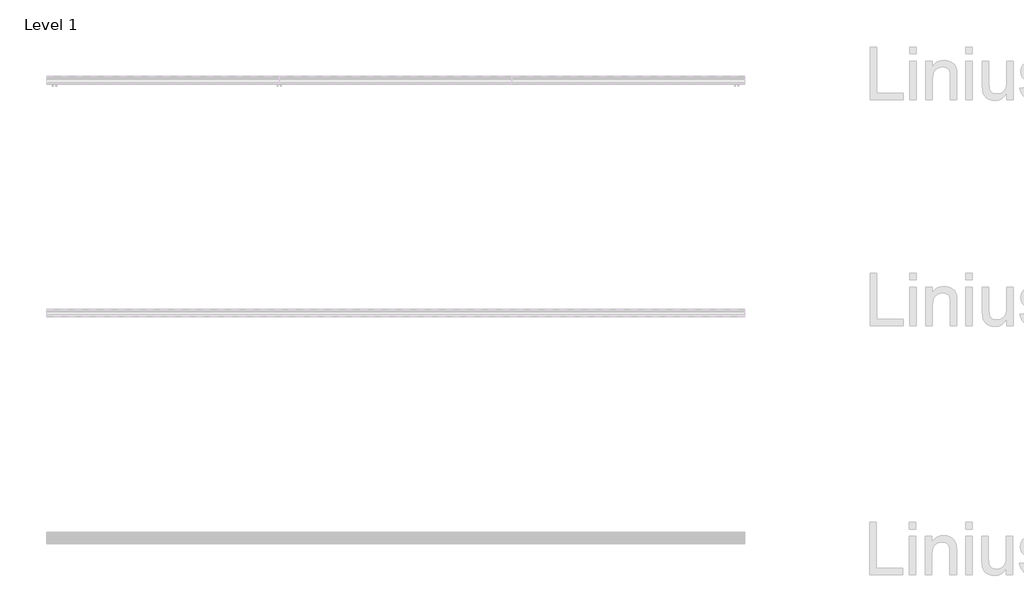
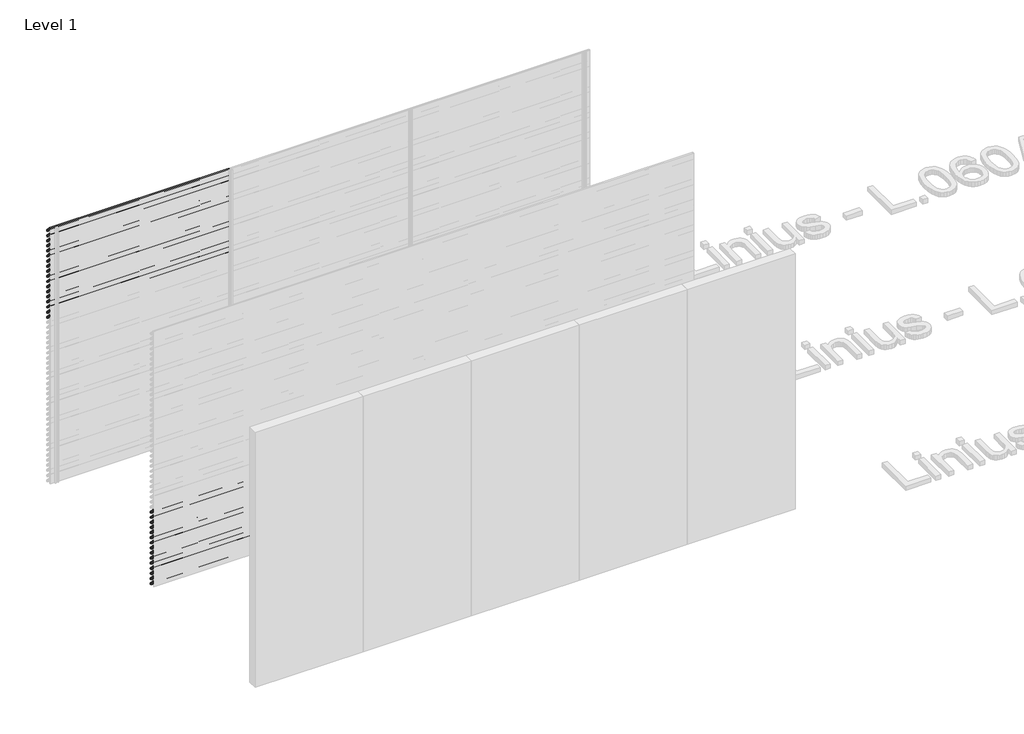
# One storey, part 138 of 153: 33 proxies.
"""IFC4 building model written with IfcOpenShell, lengths in millimetres."""

from ifc_helpers import new_model, si_unit, point, frame, frame_2d, origin, place, context, project, spatial, polyline, circle_curve, trimmed, segment, composite_curve, outline, extrude, element, save

model = new_model("IFC4")

# Units and contexts
model_context = context("Model", 3, world=origin())
ifc_project = project(units=[si_unit("LENGTHUNIT", "METRE", prefix="MILLI")], contexts=[model_context])

# Site, building, storey
site = spatial("IfcSite", under=ifc_project)
building = spatial("IfcBuilding", under=site)
storey = spatial("IfcBuildingStorey", under=building, Name="Level 1", Elevation=0.0)

# Proxies
placement = place(None, origin())
element("IfcBuildingElementProxy", 1, Name="Wall Sweeps", at=placement, inside=storey, context=model_context, shape_type="SweptSolid", body=[
    extrude(outline(composite_curve([segment(polyline([(66485.0540136, 3000.0), (66499.874191, 2998.7034025), (66549.0540136, 2945.0102749), (66549.0540136, 2933.6108187)]), True, "CONTINUOUS"), segment(trimmed(circle_curve(frame_2d((66545.7883652, 2933.897153)), 3.2781774), [point((66549.0540136, 2933.6108187))], [point((66546.4639442, 2930.6893438))], False, "CARTESIAN"), True, "CONTINUOUS"), segment(polyline([(66546.4639442, 2930.6893438), (66534.1895723, 2931.6282758), (66485.0540136, 2985.2730773), (66485.0540136, 3000.0)]), True, "CONTINUOUS")], self_intersect=False), holes=[composite_curve([segment(polyline([(66499.1621773, 2997.2599659), (66486.5540136, 2998.3630372), (66486.5540136, 2985.856213), (66534.8952036, 2933.0786805), (66546.3312542, 2932.2038762)]), True, "CONTINUOUS"), segment(trimmed(circle_curve(frame_2d((66545.7883652, 2933.897153)), 1.7781774), [point((66546.3312542, 2932.2038762))], [point((66547.5540136, 2933.6864389))], True, "CARTESIAN"), True, "CONTINUOUS"), segment(polyline([(66547.5540136, 2933.6864389), (66547.5540136, 2944.4271392), (66499.1621773, 2997.2599659)]), True, "CONTINUOUS")], self_intersect=False)]), frame((44966.6208097, 0.0, 0.0), z_axis=(1.0, 0.0, 0.0), x_axis=(0.0, 1.0, 0.0)), (0.0, 0.0, 1.0), 2000.0000001),
])
element("IfcBuildingElementProxy", 2, Name="Wall Sweeps", at=placement, inside=storey, context=model_context, shape_type="SweptSolid", body=[
    extrude(outline(composite_curve([segment(polyline([(66485.0540136, 2940.0), (66499.874191, 2938.7034025), (66549.0540136, 2885.0102749), (66549.0540136, 2873.6108187)]), True, "CONTINUOUS"), segment(trimmed(circle_curve(frame_2d((66545.7883652, 2873.897153)), 3.2781774), [point((66549.0540136, 2873.6108187))], [point((66546.4639442, 2870.6893438))], False, "CARTESIAN"), True, "CONTINUOUS"), segment(polyline([(66546.4639442, 2870.6893438), (66534.1895723, 2871.6282758), (66485.0540136, 2925.2730773), (66485.0540136, 2940.0)]), True, "CONTINUOUS")], self_intersect=False), holes=[composite_curve([segment(polyline([(66499.1621773, 2937.2599659), (66486.5540136, 2938.3630372), (66486.5540136, 2925.856213), (66534.8952036, 2873.0786805), (66546.3312542, 2872.2038762)]), True, "CONTINUOUS"), segment(trimmed(circle_curve(frame_2d((66545.7883652, 2873.897153)), 1.7781774), [point((66546.3312542, 2872.2038762))], [point((66547.5540136, 2873.6864389))], True, "CARTESIAN"), True, "CONTINUOUS"), segment(polyline([(66547.5540136, 2873.6864389), (66547.5540136, 2884.4271392), (66499.1621773, 2937.2599659)]), True, "CONTINUOUS")], self_intersect=False)]), frame((44966.6208097, 0.0, 0.0), z_axis=(1.0, 0.0, 0.0), x_axis=(0.0, 1.0, 0.0)), (0.0, 0.0, 1.0), 2000.0000001),
])
element("IfcBuildingElementProxy", 3, Name="Wall Sweeps", at=placement, inside=storey, context=model_context, shape_type="SweptSolid", body=[
    extrude(outline(composite_curve([segment(polyline([(66485.0540136, 2880.0), (66499.874191, 2878.7034025), (66549.0540136, 2825.0102749), (66549.0540136, 2813.6108187)]), True, "CONTINUOUS"), segment(trimmed(circle_curve(frame_2d((66545.7883652, 2813.897153)), 3.2781774), [point((66549.0540136, 2813.6108187))], [point((66546.4639442, 2810.6893438))], False, "CARTESIAN"), True, "CONTINUOUS"), segment(polyline([(66546.4639442, 2810.6893438), (66534.1895723, 2811.6282758), (66485.0540136, 2865.2730773), (66485.0540136, 2880.0)]), True, "CONTINUOUS")], self_intersect=False), holes=[composite_curve([segment(polyline([(66499.1621773, 2877.2599659), (66486.5540136, 2878.3630372), (66486.5540136, 2865.856213), (66534.8952036, 2813.0786805), (66546.3312542, 2812.2038762)]), True, "CONTINUOUS"), segment(trimmed(circle_curve(frame_2d((66545.7883652, 2813.897153)), 1.7781774), [point((66546.3312542, 2812.2038762))], [point((66547.5540136, 2813.6864389))], True, "CARTESIAN"), True, "CONTINUOUS"), segment(polyline([(66547.5540136, 2813.6864389), (66547.5540136, 2824.4271392), (66499.1621773, 2877.2599659)]), True, "CONTINUOUS")], self_intersect=False)]), frame((44966.6208097, 0.0, 0.0), z_axis=(1.0, 0.0, 0.0), x_axis=(0.0, 1.0, 0.0)), (0.0, 0.0, 1.0), 2000.0000001),
])
element("IfcBuildingElementProxy", 4, Name="Wall Sweeps", at=placement, inside=storey, context=model_context, shape_type="SweptSolid", body=[
    extrude(outline(composite_curve([segment(polyline([(66485.0540136, 2820.0), (66499.874191, 2818.7034025), (66549.0540136, 2765.0102749), (66549.0540136, 2753.6108187)]), True, "CONTINUOUS"), segment(trimmed(circle_curve(frame_2d((66545.7883652, 2753.897153)), 3.2781774), [point((66549.0540136, 2753.6108187))], [point((66546.4639442, 2750.6893438))], False, "CARTESIAN"), True, "CONTINUOUS"), segment(polyline([(66546.4639442, 2750.6893438), (66534.1895723, 2751.6282758), (66485.0540136, 2805.2730773), (66485.0540136, 2820.0)]), True, "CONTINUOUS")], self_intersect=False), holes=[composite_curve([segment(polyline([(66499.1621773, 2817.2599659), (66486.5540136, 2818.3630372), (66486.5540136, 2805.856213), (66534.8952036, 2753.0786805), (66546.3312542, 2752.2038762)]), True, "CONTINUOUS"), segment(trimmed(circle_curve(frame_2d((66545.7883652, 2753.897153)), 1.7781774), [point((66546.3312542, 2752.2038762))], [point((66547.5540136, 2753.6864389))], True, "CARTESIAN"), True, "CONTINUOUS"), segment(polyline([(66547.5540136, 2753.6864389), (66547.5540136, 2764.4271392), (66499.1621773, 2817.2599659)]), True, "CONTINUOUS")], self_intersect=False)]), frame((44966.6208097, 0.0, 0.0), z_axis=(1.0, 0.0, 0.0), x_axis=(0.0, 1.0, 0.0)), (0.0, 0.0, 1.0), 2000.0000001),
])
element("IfcBuildingElementProxy", 5, Name="Wall Sweeps", at=placement, inside=storey, context=model_context, shape_type="SweptSolid", body=[
    extrude(outline(composite_curve([segment(polyline([(66485.0540136, 2760.0), (66499.874191, 2758.7034025), (66549.0540136, 2705.0102749), (66549.0540136, 2693.6108187)]), True, "CONTINUOUS"), segment(trimmed(circle_curve(frame_2d((66545.7883652, 2693.897153)), 3.2781774), [point((66549.0540136, 2693.6108187))], [point((66546.4639442, 2690.6893438))], False, "CARTESIAN"), True, "CONTINUOUS"), segment(polyline([(66546.4639442, 2690.6893438), (66534.1895723, 2691.6282758), (66485.0540136, 2745.2730773), (66485.0540136, 2760.0)]), True, "CONTINUOUS")], self_intersect=False), holes=[composite_curve([segment(polyline([(66499.1621773, 2757.2599659), (66486.5540136, 2758.3630372), (66486.5540136, 2745.856213), (66534.8952036, 2693.0786805), (66546.3312542, 2692.2038762)]), True, "CONTINUOUS"), segment(trimmed(circle_curve(frame_2d((66545.7883652, 2693.897153)), 1.7781774), [point((66546.3312542, 2692.2038762))], [point((66547.5540136, 2693.6864389))], True, "CARTESIAN"), True, "CONTINUOUS"), segment(polyline([(66547.5540136, 2693.6864389), (66547.5540136, 2704.4271392), (66499.1621773, 2757.2599659)]), True, "CONTINUOUS")], self_intersect=False)]), frame((44966.6208097, 0.0, 0.0), z_axis=(1.0, 0.0, 0.0), x_axis=(0.0, 1.0, 0.0)), (0.0, 0.0, 1.0), 2000.0000001),
])
element("IfcBuildingElementProxy", 6, Name="Wall Sweeps", at=placement, inside=storey, context=model_context, shape_type="SweptSolid", body=[
    extrude(outline(composite_curve([segment(polyline([(66485.0540136, 2700.0), (66499.874191, 2698.7034025), (66549.0540136, 2645.0102749), (66549.0540136, 2633.6108187)]), True, "CONTINUOUS"), segment(trimmed(circle_curve(frame_2d((66545.7883652, 2633.897153)), 3.2781774), [point((66549.0540136, 2633.6108187))], [point((66546.4639442, 2630.6893438))], False, "CARTESIAN"), True, "CONTINUOUS"), segment(polyline([(66546.4639442, 2630.6893438), (66534.1895723, 2631.6282758), (66485.0540136, 2685.2730773), (66485.0540136, 2700.0)]), True, "CONTINUOUS")], self_intersect=False), holes=[composite_curve([segment(polyline([(66499.1621773, 2697.2599659), (66486.5540136, 2698.3630372), (66486.5540136, 2685.856213), (66534.8952036, 2633.0786805), (66546.3312542, 2632.2038762)]), True, "CONTINUOUS"), segment(trimmed(circle_curve(frame_2d((66545.7883652, 2633.897153)), 1.7781774), [point((66546.3312542, 2632.2038762))], [point((66547.5540136, 2633.6864389))], True, "CARTESIAN"), True, "CONTINUOUS"), segment(polyline([(66547.5540136, 2633.6864389), (66547.5540136, 2644.4271392), (66499.1621773, 2697.2599659)]), True, "CONTINUOUS")], self_intersect=False)]), frame((44966.6208097, 0.0, 0.0), z_axis=(1.0, 0.0, 0.0), x_axis=(0.0, 1.0, 0.0)), (0.0, 0.0, 1.0), 2000.0000001),
])
element("IfcBuildingElementProxy", 7, Name="Wall Sweeps", at=placement, inside=storey, context=model_context, shape_type="SweptSolid", body=[
    extrude(outline(composite_curve([segment(polyline([(66485.0540136, 2640.0), (66499.874191, 2638.7034025), (66549.0540136, 2585.0102749), (66549.0540136, 2573.6108187)]), True, "CONTINUOUS"), segment(trimmed(circle_curve(frame_2d((66545.7883652, 2573.897153)), 3.2781774), [point((66549.0540136, 2573.6108187))], [point((66546.4639442, 2570.6893438))], False, "CARTESIAN"), True, "CONTINUOUS"), segment(polyline([(66546.4639442, 2570.6893438), (66534.1895723, 2571.6282758), (66485.0540136, 2625.2730773), (66485.0540136, 2640.0)]), True, "CONTINUOUS")], self_intersect=False), holes=[composite_curve([segment(polyline([(66499.1621773, 2637.2599659), (66486.5540136, 2638.3630372), (66486.5540136, 2625.856213), (66534.8952036, 2573.0786805), (66546.3312542, 2572.2038762)]), True, "CONTINUOUS"), segment(trimmed(circle_curve(frame_2d((66545.7883652, 2573.897153)), 1.7781774), [point((66546.3312542, 2572.2038762))], [point((66547.5540136, 2573.6864389))], True, "CARTESIAN"), True, "CONTINUOUS"), segment(polyline([(66547.5540136, 2573.6864389), (66547.5540136, 2584.4271392), (66499.1621773, 2637.2599659)]), True, "CONTINUOUS")], self_intersect=False)]), frame((44966.6208097, 0.0, 0.0), z_axis=(1.0, 0.0, 0.0), x_axis=(0.0, 1.0, 0.0)), (0.0, 0.0, 1.0), 2000.0000001),
])
element("IfcBuildingElementProxy", 8, Name="Wall Sweeps", at=placement, inside=storey, context=model_context, shape_type="SweptSolid", body=[
    extrude(outline(composite_curve([segment(polyline([(66485.0540136, 2580.0), (66499.874191, 2578.7034025), (66549.0540136, 2525.0102749), (66549.0540136, 2513.6108187)]), True, "CONTINUOUS"), segment(trimmed(circle_curve(frame_2d((66545.7883652, 2513.897153)), 3.2781774), [point((66549.0540136, 2513.6108187))], [point((66546.4639442, 2510.6893438))], False, "CARTESIAN"), True, "CONTINUOUS"), segment(polyline([(66546.4639442, 2510.6893438), (66534.1895723, 2511.6282758), (66485.0540136, 2565.2730773), (66485.0540136, 2580.0)]), True, "CONTINUOUS")], self_intersect=False), holes=[composite_curve([segment(polyline([(66499.1621773, 2577.2599659), (66486.5540136, 2578.3630372), (66486.5540136, 2565.856213), (66534.8952036, 2513.0786805), (66546.3312542, 2512.2038762)]), True, "CONTINUOUS"), segment(trimmed(circle_curve(frame_2d((66545.7883652, 2513.897153)), 1.7781774), [point((66546.3312542, 2512.2038762))], [point((66547.5540136, 2513.6864389))], True, "CARTESIAN"), True, "CONTINUOUS"), segment(polyline([(66547.5540136, 2513.6864389), (66547.5540136, 2524.4271392), (66499.1621773, 2577.2599659)]), True, "CONTINUOUS")], self_intersect=False)]), frame((44966.6208097, 0.0, 0.0), z_axis=(1.0, 0.0, 0.0), x_axis=(0.0, 1.0, 0.0)), (0.0, 0.0, 1.0), 2000.0000001),
])
element("IfcBuildingElementProxy", 9, Name="Wall Sweeps", at=placement, inside=storey, context=model_context, shape_type="SweptSolid", body=[
    extrude(outline(composite_curve([segment(polyline([(66485.0540136, 2520.0), (66499.874191, 2518.7034025), (66549.0540136, 2465.0102749), (66549.0540136, 2453.6108187)]), True, "CONTINUOUS"), segment(trimmed(circle_curve(frame_2d((66545.7883652, 2453.897153)), 3.2781774), [point((66549.0540136, 2453.6108187))], [point((66546.4639442, 2450.6893438))], False, "CARTESIAN"), True, "CONTINUOUS"), segment(polyline([(66546.4639442, 2450.6893438), (66534.1895723, 2451.6282758), (66485.0540136, 2505.2730773), (66485.0540136, 2520.0)]), True, "CONTINUOUS")], self_intersect=False), holes=[composite_curve([segment(polyline([(66499.1621773, 2517.2599659), (66486.5540136, 2518.3630372), (66486.5540136, 2505.856213), (66534.8952036, 2453.0786805), (66546.3312542, 2452.2038762)]), True, "CONTINUOUS"), segment(trimmed(circle_curve(frame_2d((66545.7883652, 2453.897153)), 1.7781774), [point((66546.3312542, 2452.2038762))], [point((66547.5540136, 2453.6864389))], True, "CARTESIAN"), True, "CONTINUOUS"), segment(polyline([(66547.5540136, 2453.6864389), (66547.5540136, 2464.4271392), (66499.1621773, 2517.2599659)]), True, "CONTINUOUS")], self_intersect=False)]), frame((44966.6208097, 0.0, 0.0), z_axis=(1.0, 0.0, 0.0), x_axis=(0.0, 1.0, 0.0)), (0.0, 0.0, 1.0), 2000.0000001),
])
element("IfcBuildingElementProxy", 10, Name="Wall Sweeps", at=placement, inside=storey, context=model_context, shape_type="SweptSolid", body=[
    extrude(outline(composite_curve([segment(polyline([(66485.0540136, 2460.0), (66499.874191, 2458.7034025), (66549.0540136, 2405.0102749), (66549.0540136, 2393.6108187)]), True, "CONTINUOUS"), segment(trimmed(circle_curve(frame_2d((66545.7883652, 2393.897153)), 3.2781774), [point((66549.0540136, 2393.6108187))], [point((66546.4639442, 2390.6893438))], False, "CARTESIAN"), True, "CONTINUOUS"), segment(polyline([(66546.4639442, 2390.6893438), (66534.1895723, 2391.6282758), (66485.0540136, 2445.2730773), (66485.0540136, 2460.0)]), True, "CONTINUOUS")], self_intersect=False), holes=[composite_curve([segment(polyline([(66499.1621773, 2457.2599659), (66486.5540136, 2458.3630372), (66486.5540136, 2445.856213), (66534.8952036, 2393.0786805), (66546.3312542, 2392.2038762)]), True, "CONTINUOUS"), segment(trimmed(circle_curve(frame_2d((66545.7883652, 2393.897153)), 1.7781774), [point((66546.3312542, 2392.2038762))], [point((66547.5540136, 2393.6864389))], True, "CARTESIAN"), True, "CONTINUOUS"), segment(polyline([(66547.5540136, 2393.6864389), (66547.5540136, 2404.4271392), (66499.1621773, 2457.2599659)]), True, "CONTINUOUS")], self_intersect=False)]), frame((44966.6208097, 0.0, 0.0), z_axis=(1.0, 0.0, 0.0), x_axis=(0.0, 1.0, 0.0)), (0.0, 0.0, 1.0), 2000.0000001),
])
element("IfcBuildingElementProxy", 11, Name="Wall Sweeps", at=placement, inside=storey, context=model_context, shape_type="SweptSolid", body=[
    extrude(outline(composite_curve([segment(polyline([(66485.0540136, 2400.0), (66499.874191, 2398.7034025), (66549.0540136, 2345.0102749), (66549.0540136, 2333.6108187)]), True, "CONTINUOUS"), segment(trimmed(circle_curve(frame_2d((66545.7883652, 2333.897153)), 3.2781774), [point((66549.0540136, 2333.6108187))], [point((66546.4639442, 2330.6893438))], False, "CARTESIAN"), True, "CONTINUOUS"), segment(polyline([(66546.4639442, 2330.6893438), (66534.1895723, 2331.6282758), (66485.0540136, 2385.2730773), (66485.0540136, 2400.0)]), True, "CONTINUOUS")], self_intersect=False), holes=[composite_curve([segment(polyline([(66499.1621773, 2397.2599659), (66486.5540136, 2398.3630372), (66486.5540136, 2385.856213), (66534.8952036, 2333.0786805), (66546.3312542, 2332.2038762)]), True, "CONTINUOUS"), segment(trimmed(circle_curve(frame_2d((66545.7883652, 2333.897153)), 1.7781774), [point((66546.3312542, 2332.2038762))], [point((66547.5540136, 2333.6864389))], True, "CARTESIAN"), True, "CONTINUOUS"), segment(polyline([(66547.5540136, 2333.6864389), (66547.5540136, 2344.4271392), (66499.1621773, 2397.2599659)]), True, "CONTINUOUS")], self_intersect=False)]), frame((44966.6208097, 0.0, 0.0), z_axis=(1.0, 0.0, 0.0), x_axis=(0.0, 1.0, 0.0)), (0.0, 0.0, 1.0), 2000.0000001),
])
element("IfcBuildingElementProxy", 12, Name="Wall Sweeps", at=placement, inside=storey, context=model_context, shape_type="SweptSolid", body=[
    extrude(outline(composite_curve([segment(polyline([(66485.0540136, 2340.0), (66499.874191, 2338.7034025), (66549.0540136, 2285.0102749), (66549.0540136, 2273.6108187)]), True, "CONTINUOUS"), segment(trimmed(circle_curve(frame_2d((66545.7883652, 2273.897153)), 3.2781774), [point((66549.0540136, 2273.6108187))], [point((66546.4639442, 2270.6893438))], False, "CARTESIAN"), True, "CONTINUOUS"), segment(polyline([(66546.4639442, 2270.6893438), (66534.1895723, 2271.6282758), (66485.0540136, 2325.2730773), (66485.0540136, 2340.0)]), True, "CONTINUOUS")], self_intersect=False), holes=[composite_curve([segment(polyline([(66499.1621773, 2337.2599659), (66486.5540136, 2338.3630372), (66486.5540136, 2325.856213), (66534.8952036, 2273.0786805), (66546.3312542, 2272.2038762)]), True, "CONTINUOUS"), segment(trimmed(circle_curve(frame_2d((66545.7883652, 2273.897153)), 1.7781774), [point((66546.3312542, 2272.2038762))], [point((66547.5540136, 2273.6864389))], True, "CARTESIAN"), True, "CONTINUOUS"), segment(polyline([(66547.5540136, 2273.6864389), (66547.5540136, 2284.4271392), (66499.1621773, 2337.2599659)]), True, "CONTINUOUS")], self_intersect=False)]), frame((44966.6208097, 0.0, 0.0), z_axis=(1.0, 0.0, 0.0), x_axis=(0.0, 1.0, 0.0)), (0.0, 0.0, 1.0), 2000.0000001),
])
element("IfcBuildingElementProxy", 13, Name="Wall Sweeps", at=placement, inside=storey, context=model_context, shape_type="SweptSolid", body=[
    extrude(outline(composite_curve([segment(polyline([(66485.0540136, 2280.0), (66499.874191, 2278.7034025), (66549.0540136, 2225.0102749), (66549.0540136, 2213.6108187)]), True, "CONTINUOUS"), segment(trimmed(circle_curve(frame_2d((66545.7883652, 2213.897153)), 3.2781774), [point((66549.0540136, 2213.6108187))], [point((66546.4639442, 2210.6893438))], False, "CARTESIAN"), True, "CONTINUOUS"), segment(polyline([(66546.4639442, 2210.6893438), (66534.1895723, 2211.6282758), (66485.0540136, 2265.2730773), (66485.0540136, 2280.0)]), True, "CONTINUOUS")], self_intersect=False), holes=[composite_curve([segment(polyline([(66499.1621773, 2277.2599659), (66486.5540136, 2278.3630372), (66486.5540136, 2265.856213), (66534.8952036, 2213.0786805), (66546.3312542, 2212.2038762)]), True, "CONTINUOUS"), segment(trimmed(circle_curve(frame_2d((66545.7883652, 2213.897153)), 1.7781774), [point((66546.3312542, 2212.2038762))], [point((66547.5540136, 2213.6864389))], True, "CARTESIAN"), True, "CONTINUOUS"), segment(polyline([(66547.5540136, 2213.6864389), (66547.5540136, 2224.4271392), (66499.1621773, 2277.2599659)]), True, "CONTINUOUS")], self_intersect=False)]), frame((44966.6208097, 0.0, 0.0), z_axis=(1.0, 0.0, 0.0), x_axis=(0.0, 1.0, 0.0)), (0.0, 0.0, 1.0), 2000.0000001),
])
element("IfcBuildingElementProxy", 14, Name="Wall Sweeps", at=placement, inside=storey, context=model_context, shape_type="SweptSolid", body=[
    extrude(outline(composite_curve([segment(polyline([(66485.0540136, 2220.0), (66499.874191, 2218.7034025), (66549.0540136, 2165.0102749), (66549.0540136, 2153.6108187)]), True, "CONTINUOUS"), segment(trimmed(circle_curve(frame_2d((66545.7883652, 2153.897153)), 3.2781774), [point((66549.0540136, 2153.6108187))], [point((66546.4639442, 2150.6893438))], False, "CARTESIAN"), True, "CONTINUOUS"), segment(polyline([(66546.4639442, 2150.6893438), (66534.1895723, 2151.6282758), (66485.0540136, 2205.2730773), (66485.0540136, 2220.0)]), True, "CONTINUOUS")], self_intersect=False), holes=[composite_curve([segment(polyline([(66499.1621773, 2217.2599659), (66486.5540136, 2218.3630372), (66486.5540136, 2205.856213), (66534.8952036, 2153.0786805), (66546.3312542, 2152.2038762)]), True, "CONTINUOUS"), segment(trimmed(circle_curve(frame_2d((66545.7883652, 2153.897153)), 1.7781774), [point((66546.3312542, 2152.2038762))], [point((66547.5540136, 2153.6864389))], True, "CARTESIAN"), True, "CONTINUOUS"), segment(polyline([(66547.5540136, 2153.6864389), (66547.5540136, 2164.4271392), (66499.1621773, 2217.2599659)]), True, "CONTINUOUS")], self_intersect=False)]), frame((44966.6208097, 0.0, 0.0), z_axis=(1.0, 0.0, 0.0), x_axis=(0.0, 1.0, 0.0)), (0.0, 0.0, 1.0), 2000.0000001),
])
element("IfcBuildingElementProxy", 15, Name="Wall Sweeps", at=placement, inside=storey, context=model_context, shape_type="SweptSolid", body=[
    extrude(outline(composite_curve([segment(polyline([(66485.0540136, 2160.0), (66499.874191, 2158.7034025), (66549.0540136, 2105.0102749), (66549.0540136, 2093.6108187)]), True, "CONTINUOUS"), segment(trimmed(circle_curve(frame_2d((66545.7883652, 2093.897153)), 3.2781774), [point((66549.0540136, 2093.6108187))], [point((66546.4639442, 2090.6893438))], False, "CARTESIAN"), True, "CONTINUOUS"), segment(polyline([(66546.4639442, 2090.6893438), (66534.1895723, 2091.6282758), (66485.0540136, 2145.2730773), (66485.0540136, 2160.0)]), True, "CONTINUOUS")], self_intersect=False), holes=[composite_curve([segment(polyline([(66499.1621773, 2157.2599659), (66486.5540136, 2158.3630372), (66486.5540136, 2145.856213), (66534.8952036, 2093.0786805), (66546.3312542, 2092.2038762)]), True, "CONTINUOUS"), segment(trimmed(circle_curve(frame_2d((66545.7883652, 2093.897153)), 1.7781774), [point((66546.3312542, 2092.2038762))], [point((66547.5540136, 2093.6864389))], True, "CARTESIAN"), True, "CONTINUOUS"), segment(polyline([(66547.5540136, 2093.6864389), (66547.5540136, 2104.4271392), (66499.1621773, 2157.2599659)]), True, "CONTINUOUS")], self_intersect=False)]), frame((44966.6208097, 0.0, 0.0), z_axis=(1.0, 0.0, 0.0), x_axis=(0.0, 1.0, 0.0)), (0.0, 0.0, 1.0), 2000.0000001),
])
element("IfcBuildingElementProxy", 16, Name="Wall Sweeps", at=placement, inside=storey, context=model_context, shape_type="SweptSolid", body=[
    extrude(outline(composite_curve([segment(polyline([(66485.0540136, 2100.0), (66499.874191, 2098.7034025), (66549.0540136, 2045.0102749), (66549.0540136, 2033.6108187)]), True, "CONTINUOUS"), segment(trimmed(circle_curve(frame_2d((66545.7883652, 2033.897153)), 3.2781774), [point((66549.0540136, 2033.6108187))], [point((66546.4639442, 2030.6893438))], False, "CARTESIAN"), True, "CONTINUOUS"), segment(polyline([(66546.4639442, 2030.6893438), (66534.1895723, 2031.6282758), (66485.0540136, 2085.2730773), (66485.0540136, 2100.0)]), True, "CONTINUOUS")], self_intersect=False), holes=[composite_curve([segment(polyline([(66499.1621773, 2097.2599659), (66486.5540136, 2098.3630372), (66486.5540136, 2085.856213), (66534.8952036, 2033.0786805), (66546.3312542, 2032.2038762)]), True, "CONTINUOUS"), segment(trimmed(circle_curve(frame_2d((66545.7883652, 2033.897153)), 1.7781774), [point((66546.3312542, 2032.2038762))], [point((66547.5540136, 2033.6864389))], True, "CARTESIAN"), True, "CONTINUOUS"), segment(polyline([(66547.5540136, 2033.6864389), (66547.5540136, 2044.4271392), (66499.1621773, 2097.2599659)]), True, "CONTINUOUS")], self_intersect=False)]), frame((44966.6208097, 0.0, 0.0), z_axis=(1.0, 0.0, 0.0), x_axis=(0.0, 1.0, 0.0)), (0.0, 0.0, 1.0), 2000.0000001),
])
element("IfcBuildingElementProxy", 17, Name="Wall Sweeps", at=placement, inside=storey, context=model_context, shape_type="SweptSolid", body=[
    extrude(outline(composite_curve([segment(polyline([(66485.0540136, 2040.0), (66499.874191, 2038.7034025), (66549.0540136, 1985.0102749), (66549.0540136, 1973.6108187)]), True, "CONTINUOUS"), segment(trimmed(circle_curve(frame_2d((66545.7883652, 1973.897153)), 3.2781774), [point((66549.0540136, 1973.6108187))], [point((66546.4639442, 1970.6893438))], False, "CARTESIAN"), True, "CONTINUOUS"), segment(polyline([(66546.4639442, 1970.6893438), (66534.1895723, 1971.6282758), (66485.0540136, 2025.2730773), (66485.0540136, 2040.0)]), True, "CONTINUOUS")], self_intersect=False), holes=[composite_curve([segment(polyline([(66499.1621773, 2037.2599659), (66486.5540136, 2038.3630372), (66486.5540136, 2025.856213), (66534.8952036, 1973.0786805), (66546.3312542, 1972.2038762)]), True, "CONTINUOUS"), segment(trimmed(circle_curve(frame_2d((66545.7883652, 1973.897153)), 1.7781774), [point((66546.3312542, 1972.2038762))], [point((66547.5540136, 1973.6864389))], True, "CARTESIAN"), True, "CONTINUOUS"), segment(polyline([(66547.5540136, 1973.6864389), (66547.5540136, 1984.4271392), (66499.1621773, 2037.2599659)]), True, "CONTINUOUS")], self_intersect=False)]), frame((44966.6208097, 0.0, 0.0), z_axis=(1.0, 0.0, 0.0), x_axis=(0.0, 1.0, 0.0)), (0.0, 0.0, 1.0), 2000.0000001),
])
element("IfcBuildingElementProxy", 18, Name="Wall Sweeps", at=placement, inside=storey, context=model_context, shape_type="SweptSolid", body=[
    extrude(outline(composite_curve([segment(polyline([(66485.0540136, 1980.0), (66499.874191, 1978.7034025), (66549.0540136, 1925.0102749), (66549.0540136, 1913.6108187)]), True, "CONTINUOUS"), segment(trimmed(circle_curve(frame_2d((66545.7883652, 1913.897153)), 3.2781774), [point((66549.0540136, 1913.6108187))], [point((66546.4639442, 1910.6893438))], False, "CARTESIAN"), True, "CONTINUOUS"), segment(polyline([(66546.4639442, 1910.6893438), (66534.1895723, 1911.6282758), (66485.0540136, 1965.2730773), (66485.0540136, 1980.0)]), True, "CONTINUOUS")], self_intersect=False), holes=[composite_curve([segment(polyline([(66499.1621773, 1977.2599659), (66486.5540136, 1978.3630372), (66486.5540136, 1965.856213), (66534.8952036, 1913.0786805), (66546.3312542, 1912.2038762)]), True, "CONTINUOUS"), segment(trimmed(circle_curve(frame_2d((66545.7883652, 1913.897153)), 1.7781774), [point((66546.3312542, 1912.2038762))], [point((66547.5540136, 1913.6864389))], True, "CARTESIAN"), True, "CONTINUOUS"), segment(polyline([(66547.5540136, 1913.6864389), (66547.5540136, 1924.4271392), (66499.1621773, 1977.2599659)]), True, "CONTINUOUS")], self_intersect=False)]), frame((44966.6208097, 0.0, 0.0), z_axis=(1.0, 0.0, 0.0), x_axis=(0.0, 1.0, 0.0)), (0.0, 0.0, 1.0), 2000.0000001),
])
element("IfcBuildingElementProxy", 19, Name="Wall Sweeps", at=placement, inside=storey, context=model_context, shape_type="SweptSolid", body=[
    extrude(outline(composite_curve([segment(polyline([(64485.0540136, 900.0), (64499.874191, 898.7034025), (64549.0540136, 845.0102749), (64549.0540136, 833.6108187)]), True, "CONTINUOUS"), segment(trimmed(circle_curve(frame_2d((64545.7883652, 833.897153)), 3.2781774), [point((64549.0540136, 833.6108187))], [point((64546.4639442, 830.6893438))], False, "CARTESIAN"), True, "CONTINUOUS"), segment(polyline([(64546.4639442, 830.6893438), (64534.1895723, 831.6282758), (64485.0540136, 885.2730773), (64485.0540136, 900.0)]), True, "CONTINUOUS")], self_intersect=False), holes=[composite_curve([segment(polyline([(64499.1621773, 897.2599659), (64486.5540136, 898.3630372), (64486.5540136, 885.856213), (64534.8952036, 833.0786805), (64546.3312542, 832.2038762)]), True, "CONTINUOUS"), segment(trimmed(circle_curve(frame_2d((64545.7883652, 833.897153)), 1.7781774), [point((64546.3312542, 832.2038762))], [point((64547.5540136, 833.6864389))], True, "CARTESIAN"), True, "CONTINUOUS"), segment(polyline([(64547.5540136, 833.6864389), (64547.5540136, 844.4271392), (64499.1621773, 897.2599659)]), True, "CONTINUOUS")], self_intersect=False)]), frame((44966.6208097, 0.0, 0.0), z_axis=(1.0, 0.0, 0.0), x_axis=(0.0, 1.0, 0.0)), (0.0, 0.0, 1.0), 6000.0),
])
element("IfcBuildingElementProxy", 20, Name="Wall Sweeps", at=placement, inside=storey, context=model_context, shape_type="SweptSolid", body=[
    extrude(outline(composite_curve([segment(polyline([(64485.0540136, 840.0), (64499.874191, 838.7034025), (64549.0540136, 785.0102749), (64549.0540136, 773.6108187)]), True, "CONTINUOUS"), segment(trimmed(circle_curve(frame_2d((64545.7883652, 773.897153)), 3.2781774), [point((64549.0540136, 773.6108187))], [point((64546.4639442, 770.6893438))], False, "CARTESIAN"), True, "CONTINUOUS"), segment(polyline([(64546.4639442, 770.6893438), (64534.1895723, 771.6282758), (64485.0540136, 825.2730773), (64485.0540136, 840.0)]), True, "CONTINUOUS")], self_intersect=False), holes=[composite_curve([segment(polyline([(64499.1621773, 837.2599659), (64486.5540136, 838.3630372), (64486.5540136, 825.856213), (64534.8952036, 773.0786805), (64546.3312542, 772.2038762)]), True, "CONTINUOUS"), segment(trimmed(circle_curve(frame_2d((64545.7883652, 773.897153)), 1.7781774), [point((64546.3312542, 772.2038762))], [point((64547.5540136, 773.6864389))], True, "CARTESIAN"), True, "CONTINUOUS"), segment(polyline([(64547.5540136, 773.6864389), (64547.5540136, 784.4271392), (64499.1621773, 837.2599659)]), True, "CONTINUOUS")], self_intersect=False)]), frame((44966.6208097, 0.0, 0.0), z_axis=(1.0, 0.0, 0.0), x_axis=(0.0, 1.0, 0.0)), (0.0, 0.0, 1.0), 6000.0),
])
element("IfcBuildingElementProxy", 21, Name="Wall Sweeps", at=placement, inside=storey, context=model_context, shape_type="SweptSolid", body=[
    extrude(outline(composite_curve([segment(polyline([(64485.0540136, 780.0), (64499.874191, 778.7034025), (64549.0540136, 725.0102749), (64549.0540136, 713.6108187)]), True, "CONTINUOUS"), segment(trimmed(circle_curve(frame_2d((64545.7883652, 713.897153)), 3.2781774), [point((64549.0540136, 713.6108187))], [point((64546.4639442, 710.6893438))], False, "CARTESIAN"), True, "CONTINUOUS"), segment(polyline([(64546.4639442, 710.6893438), (64534.1895723, 711.6282758), (64485.0540136, 765.2730773), (64485.0540136, 780.0)]), True, "CONTINUOUS")], self_intersect=False), holes=[composite_curve([segment(polyline([(64499.1621773, 777.2599659), (64486.5540136, 778.3630372), (64486.5540136, 765.856213), (64534.8952036, 713.0786805), (64546.3312542, 712.2038762)]), True, "CONTINUOUS"), segment(trimmed(circle_curve(frame_2d((64545.7883652, 713.897153)), 1.7781774), [point((64546.3312542, 712.2038762))], [point((64547.5540136, 713.6864389))], True, "CARTESIAN"), True, "CONTINUOUS"), segment(polyline([(64547.5540136, 713.6864389), (64547.5540136, 724.4271392), (64499.1621773, 777.2599659)]), True, "CONTINUOUS")], self_intersect=False)]), frame((44966.6208097, 0.0, 0.0), z_axis=(1.0, 0.0, 0.0), x_axis=(0.0, 1.0, 0.0)), (0.0, 0.0, 1.0), 6000.0),
])
element("IfcBuildingElementProxy", 22, Name="Wall Sweeps", at=placement, inside=storey, context=model_context, shape_type="SweptSolid", body=[
    extrude(outline(composite_curve([segment(polyline([(64485.0540136, 720.0), (64499.874191, 718.7034025), (64549.0540136, 665.0102749), (64549.0540136, 653.6108187)]), True, "CONTINUOUS"), segment(trimmed(circle_curve(frame_2d((64545.7883652, 653.897153)), 3.2781774), [point((64549.0540136, 653.6108187))], [point((64546.4639442, 650.6893438))], False, "CARTESIAN"), True, "CONTINUOUS"), segment(polyline([(64546.4639442, 650.6893438), (64534.1895723, 651.6282758), (64485.0540136, 705.2730773), (64485.0540136, 720.0)]), True, "CONTINUOUS")], self_intersect=False), holes=[composite_curve([segment(polyline([(64499.1621773, 717.2599659), (64486.5540136, 718.3630372), (64486.5540136, 705.856213), (64534.8952036, 653.0786805), (64546.3312542, 652.2038762)]), True, "CONTINUOUS"), segment(trimmed(circle_curve(frame_2d((64545.7883652, 653.897153)), 1.7781774), [point((64546.3312542, 652.2038762))], [point((64547.5540136, 653.6864389))], True, "CARTESIAN"), True, "CONTINUOUS"), segment(polyline([(64547.5540136, 653.6864389), (64547.5540136, 664.4271392), (64499.1621773, 717.2599659)]), True, "CONTINUOUS")], self_intersect=False)]), frame((44966.6208097, 0.0, 0.0), z_axis=(1.0, 0.0, 0.0), x_axis=(0.0, 1.0, 0.0)), (0.0, 0.0, 1.0), 6000.0),
])
element("IfcBuildingElementProxy", 23, Name="Wall Sweeps", at=placement, inside=storey, context=model_context, shape_type="SweptSolid", body=[
    extrude(outline(composite_curve([segment(polyline([(64485.0540136, 660.0), (64499.874191, 658.7034025), (64549.0540136, 605.0102749), (64549.0540136, 593.6108187)]), True, "CONTINUOUS"), segment(trimmed(circle_curve(frame_2d((64545.7883652, 593.897153)), 3.2781774), [point((64549.0540136, 593.6108187))], [point((64546.4639442, 590.6893438))], False, "CARTESIAN"), True, "CONTINUOUS"), segment(polyline([(64546.4639442, 590.6893438), (64534.1895723, 591.6282758), (64485.0540136, 645.2730773), (64485.0540136, 660.0)]), True, "CONTINUOUS")], self_intersect=False), holes=[composite_curve([segment(polyline([(64499.1621773, 657.2599659), (64486.5540136, 658.3630372), (64486.5540136, 645.856213), (64534.8952036, 593.0786805), (64546.3312542, 592.2038762)]), True, "CONTINUOUS"), segment(trimmed(circle_curve(frame_2d((64545.7883652, 593.897153)), 1.7781774), [point((64546.3312542, 592.2038762))], [point((64547.5540136, 593.6864389))], True, "CARTESIAN"), True, "CONTINUOUS"), segment(polyline([(64547.5540136, 593.6864389), (64547.5540136, 604.4271392), (64499.1621773, 657.2599659)]), True, "CONTINUOUS")], self_intersect=False)]), frame((44966.6208097, 0.0, 0.0), z_axis=(1.0, 0.0, 0.0), x_axis=(0.0, 1.0, 0.0)), (0.0, 0.0, 1.0), 6000.0),
])
element("IfcBuildingElementProxy", 24, Name="Wall Sweeps", at=placement, inside=storey, context=model_context, shape_type="SweptSolid", body=[
    extrude(outline(composite_curve([segment(polyline([(64485.0540136, 600.0), (64499.874191, 598.7034025), (64549.0540136, 545.0102749), (64549.0540136, 533.6108187)]), True, "CONTINUOUS"), segment(trimmed(circle_curve(frame_2d((64545.7883652, 533.897153)), 3.2781774), [point((64549.0540136, 533.6108187))], [point((64546.4639442, 530.6893438))], False, "CARTESIAN"), True, "CONTINUOUS"), segment(polyline([(64546.4639442, 530.6893438), (64534.1895723, 531.6282758), (64485.0540136, 585.2730773), (64485.0540136, 600.0)]), True, "CONTINUOUS")], self_intersect=False), holes=[composite_curve([segment(polyline([(64499.1621773, 597.2599659), (64486.5540136, 598.3630372), (64486.5540136, 585.856213), (64534.8952036, 533.0786805), (64546.3312542, 532.2038762)]), True, "CONTINUOUS"), segment(trimmed(circle_curve(frame_2d((64545.7883652, 533.897153)), 1.7781774), [point((64546.3312542, 532.2038762))], [point((64547.5540136, 533.6864389))], True, "CARTESIAN"), True, "CONTINUOUS"), segment(polyline([(64547.5540136, 533.6864389), (64547.5540136, 544.4271392), (64499.1621773, 597.2599659)]), True, "CONTINUOUS")], self_intersect=False)]), frame((44966.6208097, 0.0, 0.0), z_axis=(1.0, 0.0, 0.0), x_axis=(0.0, 1.0, 0.0)), (0.0, 0.0, 1.0), 6000.0),
])
element("IfcBuildingElementProxy", 25, Name="Wall Sweeps", at=placement, inside=storey, context=model_context, shape_type="SweptSolid", body=[
    extrude(outline(composite_curve([segment(polyline([(64485.0540136, 540.0), (64499.874191, 538.7034025), (64549.0540136, 485.0102749), (64549.0540136, 473.6108187)]), True, "CONTINUOUS"), segment(trimmed(circle_curve(frame_2d((64545.7883652, 473.897153)), 3.2781774), [point((64549.0540136, 473.6108187))], [point((64546.4639442, 470.6893438))], False, "CARTESIAN"), True, "CONTINUOUS"), segment(polyline([(64546.4639442, 470.6893438), (64534.1895723, 471.6282758), (64485.0540136, 525.2730773), (64485.0540136, 540.0)]), True, "CONTINUOUS")], self_intersect=False), holes=[composite_curve([segment(polyline([(64499.1621773, 537.2599659), (64486.5540136, 538.3630372), (64486.5540136, 525.856213), (64534.8952036, 473.0786805), (64546.3312542, 472.2038762)]), True, "CONTINUOUS"), segment(trimmed(circle_curve(frame_2d((64545.7883652, 473.897153)), 1.7781774), [point((64546.3312542, 472.2038762))], [point((64547.5540136, 473.6864389))], True, "CARTESIAN"), True, "CONTINUOUS"), segment(polyline([(64547.5540136, 473.6864389), (64547.5540136, 484.4271392), (64499.1621773, 537.2599659)]), True, "CONTINUOUS")], self_intersect=False)]), frame((44966.6208097, 0.0, 0.0), z_axis=(1.0, 0.0, 0.0), x_axis=(0.0, 1.0, 0.0)), (0.0, 0.0, 1.0), 6000.0),
])
element("IfcBuildingElementProxy", 26, Name="Wall Sweeps", at=placement, inside=storey, context=model_context, shape_type="SweptSolid", body=[
    extrude(outline(composite_curve([segment(polyline([(64485.0540136, 480.0), (64499.874191, 478.7034025), (64549.0540136, 425.0102749), (64549.0540136, 413.6108187)]), True, "CONTINUOUS"), segment(trimmed(circle_curve(frame_2d((64545.7883652, 413.897153)), 3.2781774), [point((64549.0540136, 413.6108187))], [point((64546.4639442, 410.6893438))], False, "CARTESIAN"), True, "CONTINUOUS"), segment(polyline([(64546.4639442, 410.6893438), (64534.1895723, 411.6282758), (64485.0540136, 465.2730773), (64485.0540136, 480.0)]), True, "CONTINUOUS")], self_intersect=False), holes=[composite_curve([segment(polyline([(64499.1621773, 477.2599659), (64486.5540136, 478.3630372), (64486.5540136, 465.856213), (64534.8952036, 413.0786805), (64546.3312542, 412.2038762)]), True, "CONTINUOUS"), segment(trimmed(circle_curve(frame_2d((64545.7883652, 413.897153)), 1.7781774), [point((64546.3312542, 412.2038762))], [point((64547.5540136, 413.6864389))], True, "CARTESIAN"), True, "CONTINUOUS"), segment(polyline([(64547.5540136, 413.6864389), (64547.5540136, 424.4271392), (64499.1621773, 477.2599659)]), True, "CONTINUOUS")], self_intersect=False)]), frame((44966.6208097, 0.0, 0.0), z_axis=(1.0, 0.0, 0.0), x_axis=(0.0, 1.0, 0.0)), (0.0, 0.0, 1.0), 6000.0),
])
element("IfcBuildingElementProxy", 27, Name="Wall Sweeps", at=placement, inside=storey, context=model_context, shape_type="SweptSolid", body=[
    extrude(outline(composite_curve([segment(polyline([(64485.0540136, 420.0), (64499.874191, 418.7034025), (64549.0540136, 365.0102749), (64549.0540136, 353.6108187)]), True, "CONTINUOUS"), segment(trimmed(circle_curve(frame_2d((64545.7883652, 353.897153)), 3.2781774), [point((64549.0540136, 353.6108187))], [point((64546.4639442, 350.6893438))], False, "CARTESIAN"), True, "CONTINUOUS"), segment(polyline([(64546.4639442, 350.6893438), (64534.1895723, 351.6282758), (64485.0540136, 405.2730773), (64485.0540136, 420.0)]), True, "CONTINUOUS")], self_intersect=False), holes=[composite_curve([segment(polyline([(64499.1621773, 417.2599659), (64486.5540136, 418.3630372), (64486.5540136, 405.856213), (64534.8952036, 353.0786805), (64546.3312542, 352.2038762)]), True, "CONTINUOUS"), segment(trimmed(circle_curve(frame_2d((64545.7883652, 353.897153)), 1.7781774), [point((64546.3312542, 352.2038762))], [point((64547.5540136, 353.6864389))], True, "CARTESIAN"), True, "CONTINUOUS"), segment(polyline([(64547.5540136, 353.6864389), (64547.5540136, 364.4271392), (64499.1621773, 417.2599659)]), True, "CONTINUOUS")], self_intersect=False)]), frame((44966.6208097, 0.0, 0.0), z_axis=(1.0, 0.0, 0.0), x_axis=(0.0, 1.0, 0.0)), (0.0, 0.0, 1.0), 6000.0),
])
element("IfcBuildingElementProxy", 28, Name="Wall Sweeps", at=placement, inside=storey, context=model_context, shape_type="SweptSolid", body=[
    extrude(outline(composite_curve([segment(polyline([(64485.0540136, 360.0), (64499.874191, 358.7034025), (64549.0540136, 305.0102749), (64549.0540136, 293.6108187)]), True, "CONTINUOUS"), segment(trimmed(circle_curve(frame_2d((64545.7883652, 293.897153)), 3.2781774), [point((64549.0540136, 293.6108187))], [point((64546.4639442, 290.6893438))], False, "CARTESIAN"), True, "CONTINUOUS"), segment(polyline([(64546.4639442, 290.6893438), (64534.1895723, 291.6282758), (64485.0540136, 345.2730773), (64485.0540136, 360.0)]), True, "CONTINUOUS")], self_intersect=False), holes=[composite_curve([segment(polyline([(64499.1621773, 357.2599659), (64486.5540136, 358.3630372), (64486.5540136, 345.856213), (64534.8952036, 293.0786805), (64546.3312542, 292.2038762)]), True, "CONTINUOUS"), segment(trimmed(circle_curve(frame_2d((64545.7883652, 293.897153)), 1.7781774), [point((64546.3312542, 292.2038762))], [point((64547.5540136, 293.6864389))], True, "CARTESIAN"), True, "CONTINUOUS"), segment(polyline([(64547.5540136, 293.6864389), (64547.5540136, 304.4271392), (64499.1621773, 357.2599659)]), True, "CONTINUOUS")], self_intersect=False)]), frame((44966.6208097, 0.0, 0.0), z_axis=(1.0, 0.0, 0.0), x_axis=(0.0, 1.0, 0.0)), (0.0, 0.0, 1.0), 6000.0),
])
element("IfcBuildingElementProxy", 29, Name="Wall Sweeps", at=placement, inside=storey, context=model_context, shape_type="SweptSolid", body=[
    extrude(outline(composite_curve([segment(polyline([(64485.0540136, 300.0), (64499.874191, 298.7034025), (64549.0540136, 245.0102749), (64549.0540136, 233.6108187)]), True, "CONTINUOUS"), segment(trimmed(circle_curve(frame_2d((64545.7883652, 233.897153)), 3.2781774), [point((64549.0540136, 233.6108187))], [point((64546.4639442, 230.6893438))], False, "CARTESIAN"), True, "CONTINUOUS"), segment(polyline([(64546.4639442, 230.6893438), (64534.1895723, 231.6282758), (64485.0540136, 285.2730773), (64485.0540136, 300.0)]), True, "CONTINUOUS")], self_intersect=False), holes=[composite_curve([segment(polyline([(64499.1621773, 297.2599659), (64486.5540136, 298.3630372), (64486.5540136, 285.856213), (64534.8952036, 233.0786805), (64546.3312542, 232.2038762)]), True, "CONTINUOUS"), segment(trimmed(circle_curve(frame_2d((64545.7883652, 233.897153)), 1.7781774), [point((64546.3312542, 232.2038762))], [point((64547.5540136, 233.6864389))], True, "CARTESIAN"), True, "CONTINUOUS"), segment(polyline([(64547.5540136, 233.6864389), (64547.5540136, 244.4271392), (64499.1621773, 297.2599659)]), True, "CONTINUOUS")], self_intersect=False)]), frame((44966.6208097, 0.0, 0.0), z_axis=(1.0, 0.0, 0.0), x_axis=(0.0, 1.0, 0.0)), (0.0, 0.0, 1.0), 6000.0),
])
element("IfcBuildingElementProxy", 30, Name="Wall Sweeps", at=placement, inside=storey, context=model_context, shape_type="SweptSolid", body=[
    extrude(outline(composite_curve([segment(polyline([(64485.0540136, 240.0), (64499.874191, 238.7034025), (64549.0540136, 185.0102749), (64549.0540136, 173.6108187)]), True, "CONTINUOUS"), segment(trimmed(circle_curve(frame_2d((64545.7883652, 173.897153)), 3.2781774), [point((64549.0540136, 173.6108187))], [point((64546.4639442, 170.6893438))], False, "CARTESIAN"), True, "CONTINUOUS"), segment(polyline([(64546.4639442, 170.6893438), (64534.1895723, 171.6282758), (64485.0540136, 225.2730773), (64485.0540136, 240.0)]), True, "CONTINUOUS")], self_intersect=False), holes=[composite_curve([segment(polyline([(64499.1621773, 237.2599659), (64486.5540136, 238.3630372), (64486.5540136, 225.856213), (64534.8952036, 173.0786805), (64546.3312542, 172.2038762)]), True, "CONTINUOUS"), segment(trimmed(circle_curve(frame_2d((64545.7883652, 173.897153)), 1.7781774), [point((64546.3312542, 172.2038762))], [point((64547.5540136, 173.6864389))], True, "CARTESIAN"), True, "CONTINUOUS"), segment(polyline([(64547.5540136, 173.6864389), (64547.5540136, 184.4271392), (64499.1621773, 237.2599659)]), True, "CONTINUOUS")], self_intersect=False)]), frame((44966.6208097, 0.0, 0.0), z_axis=(1.0, 0.0, 0.0), x_axis=(0.0, 1.0, 0.0)), (0.0, 0.0, 1.0), 6000.0),
])
element("IfcBuildingElementProxy", 31, Name="Wall Sweeps", at=placement, inside=storey, context=model_context, shape_type="SweptSolid", body=[
    extrude(outline(composite_curve([segment(polyline([(64485.0540136, 180.0), (64499.874191, 178.7034025), (64549.0540136, 125.0102749), (64549.0540136, 113.6108187)]), True, "CONTINUOUS"), segment(trimmed(circle_curve(frame_2d((64545.7883652, 113.897153)), 3.2781774), [point((64549.0540136, 113.6108187))], [point((64546.4639442, 110.6893438))], False, "CARTESIAN"), True, "CONTINUOUS"), segment(polyline([(64546.4639442, 110.6893438), (64534.1895723, 111.6282758), (64485.0540136, 165.2730773), (64485.0540136, 180.0)]), True, "CONTINUOUS")], self_intersect=False), holes=[composite_curve([segment(polyline([(64499.1621773, 177.2599659), (64486.5540136, 178.3630372), (64486.5540136, 165.856213), (64534.8952036, 113.0786805), (64546.3312542, 112.2038762)]), True, "CONTINUOUS"), segment(trimmed(circle_curve(frame_2d((64545.7883652, 113.897153)), 1.7781774), [point((64546.3312542, 112.2038762))], [point((64547.5540136, 113.6864389))], True, "CARTESIAN"), True, "CONTINUOUS"), segment(polyline([(64547.5540136, 113.6864389), (64547.5540136, 124.4271392), (64499.1621773, 177.2599659)]), True, "CONTINUOUS")], self_intersect=False)]), frame((44966.6208097, 0.0, 0.0), z_axis=(1.0, 0.0, 0.0), x_axis=(0.0, 1.0, 0.0)), (0.0, 0.0, 1.0), 6000.0),
])
element("IfcBuildingElementProxy", 32, Name="Wall Sweeps", at=placement, inside=storey, context=model_context, shape_type="SweptSolid", body=[
    extrude(outline(composite_curve([segment(polyline([(64485.0540136, 120.0), (64499.874191, 118.7034025), (64549.0540136, 65.0102749), (64549.0540136, 53.6108187)]), True, "CONTINUOUS"), segment(trimmed(circle_curve(frame_2d((64545.7883652, 53.897153)), 3.2781774), [point((64549.0540136, 53.6108187))], [point((64546.4639442, 50.6893438))], False, "CARTESIAN"), True, "CONTINUOUS"), segment(polyline([(64546.4639442, 50.6893438), (64534.1895723, 51.6282758), (64485.0540136, 105.2730773), (64485.0540136, 120.0)]), True, "CONTINUOUS")], self_intersect=False), holes=[composite_curve([segment(polyline([(64499.1621773, 117.2599659), (64486.5540136, 118.3630372), (64486.5540136, 105.856213), (64534.8952036, 53.0786805), (64546.3312542, 52.2038762)]), True, "CONTINUOUS"), segment(trimmed(circle_curve(frame_2d((64545.7883652, 53.897153)), 1.7781774), [point((64546.3312542, 52.2038762))], [point((64547.5540136, 53.6864389))], True, "CARTESIAN"), True, "CONTINUOUS"), segment(polyline([(64547.5540136, 53.6864389), (64547.5540136, 64.4271392), (64499.1621773, 117.2599659)]), True, "CONTINUOUS")], self_intersect=False)]), frame((44966.6208097, 0.0, 0.0), z_axis=(1.0, 0.0, 0.0), x_axis=(0.0, 1.0, 0.0)), (0.0, 0.0, 1.0), 6000.0),
])
element("IfcBuildingElementProxy", 33, Name="Wall Sweeps", at=placement, inside=storey, context=model_context, shape_type="SweptSolid", body=[
    extrude(outline(composite_curve([segment(polyline([(64485.0540136, 60.0), (64499.874191, 58.7034025), (64549.0540136, 5.0102749), (64549.0540136, -6.3891813)]), True, "CONTINUOUS"), segment(trimmed(circle_curve(frame_2d((64545.7883652, -6.102847)), 3.2781774), [point((64549.0540136, -6.3891813))], [point((64546.4639442, -9.3106562))], False, "CARTESIAN"), True, "CONTINUOUS"), segment(polyline([(64546.4639442, -9.3106562), (64534.1895723, -8.3717242), (64485.0540136, 45.2730773), (64485.0540136, 60.0)]), True, "CONTINUOUS")], self_intersect=False), holes=[composite_curve([segment(polyline([(64499.1621773, 57.2599659), (64486.5540136, 58.3630372), (64486.5540136, 45.856213), (64534.8952036, -6.9213195), (64546.3312542, -7.7961238)]), True, "CONTINUOUS"), segment(trimmed(circle_curve(frame_2d((64545.7883652, -6.102847)), 1.7781774), [point((64546.3312542, -7.7961238))], [point((64547.5540136, -6.3135611))], True, "CARTESIAN"), True, "CONTINUOUS"), segment(polyline([(64547.5540136, -6.3135611), (64547.5540136, 4.4271392), (64499.1621773, 57.2599659)]), True, "CONTINUOUS")], self_intersect=False)]), frame((44966.6208097, 0.0, 0.0), z_axis=(1.0, 0.0, 0.0), x_axis=(0.0, 1.0, 0.0)), (0.0, 0.0, 1.0), 6000.0),
])

save(model, "model.ifc")
